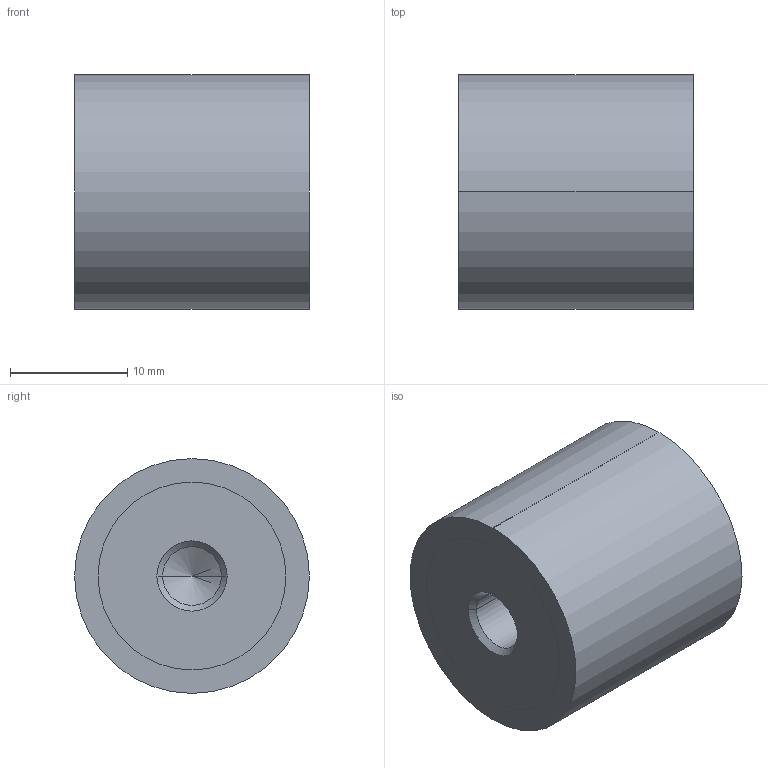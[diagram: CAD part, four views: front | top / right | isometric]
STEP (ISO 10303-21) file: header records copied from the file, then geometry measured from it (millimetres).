
FILE_DESCRIPTION (( 'STEP AP214' ), '1' );
FILE_NAME ('351-20-20-M6-EE-55.step', '2025-07-23T09:47:35', ( '' ), ( '' ), 'SwSTEP 2.0', 'SolidWorks 2022', '' );
FILE_SCHEMA (( 'AUTOMOTIVE_DESIGN' ));
Length unit declared in the file: millimetre
Products named in the file (1): 351-20-20-M6-EE-55
Bounding box: 20 x 20 x 20 mm (x, y, z)
Volume: 5982.6 mm3; surface area: 2102.8 mm2
Topology: 1 solids, 1 shells, 28 faces, 58 edges, 34 vertices
Faces by surface type: cylinder 14, cone 8, plane 6
Entity records: 844 total; most frequent: DIRECTION 144, CARTESIAN_POINT 117, ORIENTED_EDGE 108, AXIS2_PLACEMENT_3D 61, EDGE_CURVE 54, EDGE_LOOP 34, VERTEX_POINT 34, CIRCLE 32
